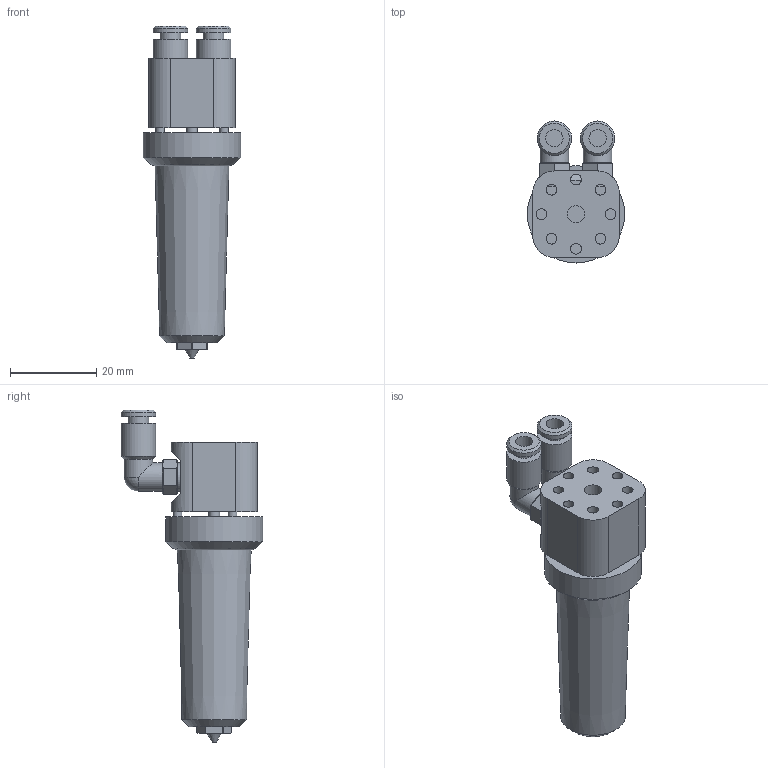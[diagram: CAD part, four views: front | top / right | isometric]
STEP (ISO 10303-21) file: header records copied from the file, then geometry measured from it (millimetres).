
FILE_DESCRIPTION(/* description */ ('CAx-IF Rec.Pracs.---Representation and Presentation of Product Manufacturing Information (PMI)---4.0---2014-10-13','CAx-IF Rec.Pracs.---3D Tessellated Geometry---0.4---2014-09-14','2;1'),/* implementation_level */ '2;1');
FILE_NAME(/* name */ '! сборка chc xl hotend',/* time_stamp */ '2025-10-03T11:00:30+04:00',/* author */ (''),/* organization */ (''),/* preprocessor_version */ 'ST-DEVELOPER v20',/* originating_system */ 'SIEMENS PLM Software NX2412.4001',/* authorisation */ $);
FILE_SCHEMA (('AP242_MANAGED_MODEL_BASED_3D_ENGINEERING_MIM_LF { 1 0 10303 442 3 1 4 }'));
Length unit declared in the file: millimetre
Products named in the file (2): ! сборка chc xl hotend; E3D Volcano nozzle _0.4MM
Assembly tree (1 placements, depth 2):
  ! сборка chc xl hotend
    E3D Volcano nozzle _0.4MM
Bounding box: 22.5 x 32.79 x 76.78 mm (x, y, z)
Volume: 18665.3 mm3; surface area: 8288.7 mm2
Topology: 8 solids, 8 shells, 175 faces, 421 edges, 320 vertices
Faces by surface type: plane 108, cylinder 43, cone 20, bspline 2, sphere 2
Full cylindrical faces by diameter (mm): 0.4 x1, 2 x4, 2.5 x8, 2.556 x1, 4 x3, 4.8 x2, 5 x1, 6.6 x6, 8 x4, 22.5 x1
Entity records: 7365 total; most frequent: CARTESIAN_POINT 3207, DIRECTION 850, ORIENTED_EDGE 628, AXIS2_PLACEMENT_3D 325, EDGE_CURVE 314, EDGE_LOOP 237, FACE_BOUND 237, VERTEX_POINT 213
